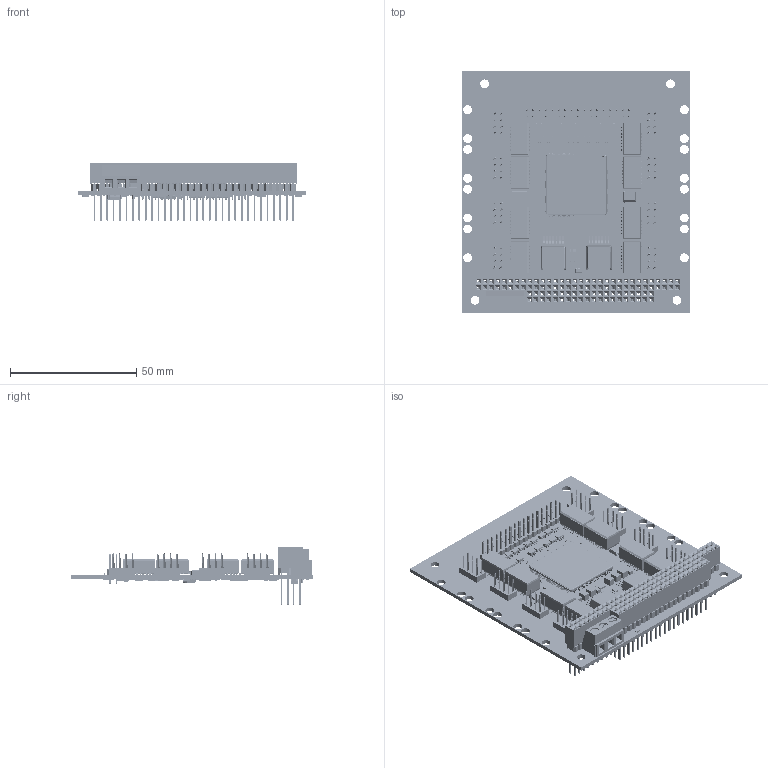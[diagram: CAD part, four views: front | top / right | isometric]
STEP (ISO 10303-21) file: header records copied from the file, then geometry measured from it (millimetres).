
FILE_DESCRIPTION (( 'STEP AP214' ), '1' );
FILE_NAME ('ESW-104-01.STEP', '2024-09-10T10:38:49', ( '' ), ( '' ), 'SwSTEP 2.0', 'SolidWorks 2022', '' );
FILE_SCHEMA (( 'AUTOMOTIVE_DESIGN' ));
Length unit declared in the file: millimetre
Products named in the file (1): ESW-104-01
Bounding box: 90.17 x 95.89 x 23.24 mm (x, y, z)
Surface area: 38352.3 mm2 (no closed solid volume)
Topology: 0 solids, 2077 shells, 9244 faces, 35416 edges, 27926 vertices
Faces by surface type: plane 8328, cylinder 890, sphere 13, bspline 8, torus 5
Full cylindrical faces by diameter (mm): 0.4 x18, 1 x15, 1.09 x85, 1.57 x1, 1.62 x1, 1.65 x2, 1.8 x3, 3.5 x20, 3.6 x3
Entity records: 465172 total; most frequent: CARTESIAN_POINT 75912, DIRECTION 57104, ORIENTED_EDGE 47529, EDGE_CURVE 35257, VECTOR 29964, LINE 29964, VERTEX_POINT 27924, AXIS2_PLACEMENT_3D 13570
